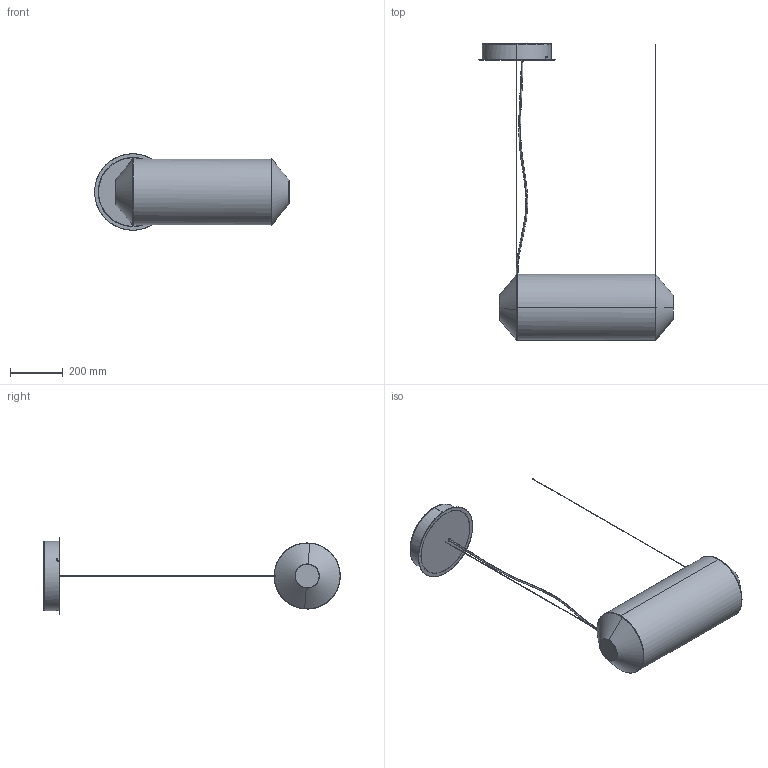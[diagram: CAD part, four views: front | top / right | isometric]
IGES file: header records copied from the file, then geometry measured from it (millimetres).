
Start section: SolidWorks IGES file using analytic representation for surfaces
Global section: file name: C:\SANTACOLE_PDM\Proyectos Catálogo\PROD-P16-018 -- TEKIO\6_Técnico comercial\3D\Tekio Horizntal\Tekio Horizontal P1\Tekio Horizontal P1.IGS; native system: SolidWorks 2019; preprocessor: SolidWorks 2019; author: aina.morell; date: 200406.183051; units: millimetre
Bounding box: 739.31 x 1125.4 x 290 mm (x, y, z)
Surface area: 1447581.1 mm2 (no closed solid volume)
Topology: 0 solids, 0 shells, 136 faces, 2853 edges, 2853 vertices
Faces by surface type: bspline 132, revolution 4
